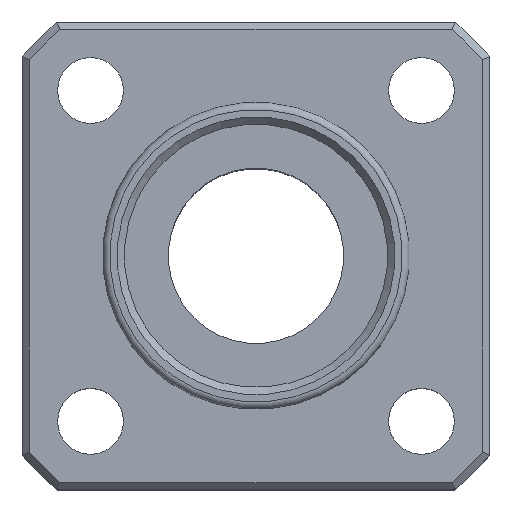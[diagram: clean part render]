
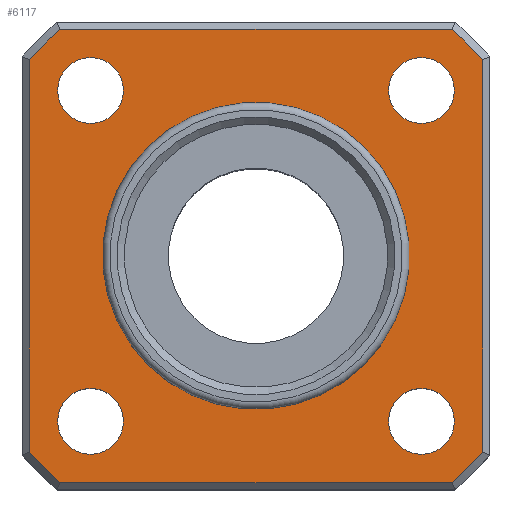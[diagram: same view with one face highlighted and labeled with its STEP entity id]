
A CAD part, top view. The second image highlights one B-rep face of the part: STEP entity #6117.
In plain terms, the highlighted planar face has unit normal (0, 0, 1).
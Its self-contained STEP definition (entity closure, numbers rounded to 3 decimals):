
#127=CIRCLE('',#6487,20.5);
#132=CIRCLE('',#6497,20.5);
#135=CIRCLE('',#6503,20.5);
#150=CIRCLE('',#6526,10.5);
#158=CIRCLE('',#6539,20.5);
#159=CIRCLE('',#6540,2.25);
#160=CIRCLE('',#6541,2.25);
#161=CIRCLE('',#6542,2.25);
#162=CIRCLE('',#6543,2.25);
#630=ORIENTED_EDGE('',*,*,#2360,.T.);
#631=ORIENTED_EDGE('',*,*,#2386,.T.);
#632=ORIENTED_EDGE('',*,*,#2387,.T.);
#633=ORIENTED_EDGE('',*,*,#2388,.T.);
#634=ORIENTED_EDGE('',*,*,#2351,.T.);
#635=ORIENTED_EDGE('',*,*,#2389,.T.);
#636=ORIENTED_EDGE('',*,*,#2336,.T.);
#637=ORIENTED_EDGE('',*,*,#2390,.T.);
#638=ORIENTED_EDGE('',*,*,#2391,.F.);
#639=ORIENTED_EDGE('',*,*,#2392,.F.);
#640=ORIENTED_EDGE('',*,*,#2393,.F.);
#641=ORIENTED_EDGE('',*,*,#2394,.F.);
#642=ORIENTED_EDGE('',*,*,#2376,.T.);
#2336=EDGE_CURVE('',#3220,#3219,#127,.T.);
#2351=EDGE_CURVE('',#3230,#3229,#132,.T.);
#2360=EDGE_CURVE('',#3236,#3235,#135,.T.);
#2376=EDGE_CURVE('',#3251,#3251,#150,.F.);
#2386=EDGE_CURVE('',#3235,#3260,#3756,.T.);
#2387=EDGE_CURVE('',#3260,#3261,#158,.T.);
#2388=EDGE_CURVE('',#3261,#3230,#3757,.T.);
#2389=EDGE_CURVE('',#3229,#3220,#3758,.T.);
#2390=EDGE_CURVE('',#3219,#3236,#3759,.T.);
#2391=EDGE_CURVE('',#3262,#3262,#159,.T.);
#2392=EDGE_CURVE('',#3263,#3263,#160,.T.);
#2393=EDGE_CURVE('',#3264,#3264,#161,.T.);
#2394=EDGE_CURVE('',#3265,#3265,#162,.T.);
#3219=VERTEX_POINT('',#9629);
#3220=VERTEX_POINT('',#9631);
#3229=VERTEX_POINT('',#9677);
#3230=VERTEX_POINT('',#9679);
#3235=VERTEX_POINT('',#9707);
#3236=VERTEX_POINT('',#9709);
#3251=VERTEX_POINT('',#9751);
#3260=VERTEX_POINT('',#9775);
#3261=VERTEX_POINT('',#9777);
#3262=VERTEX_POINT('',#9782);
#3263=VERTEX_POINT('',#9784);
#3264=VERTEX_POINT('',#9786);
#3265=VERTEX_POINT('',#9788);
#3756=LINE('',#9774,#4447);
#3757=LINE('',#9778,#4448);
#3758=LINE('',#9779,#4449);
#3759=LINE('',#9780,#4450);
#4447=VECTOR('',#7169,1000.);
#4448=VECTOR('',#7172,1000.);
#4449=VECTOR('',#7173,1000.);
#4450=VECTOR('',#7174,1000.);
#5007=EDGE_LOOP('',(#630,#631,#632,#633,#634,#635,#636,#637));
#5008=EDGE_LOOP('',(#638));
#5009=EDGE_LOOP('',(#639));
#5010=EDGE_LOOP('',(#640));
#5011=EDGE_LOOP('',(#641));
#5012=EDGE_LOOP('',(#642));
#5454=FACE_BOUND('',#5007,.T.);
#5455=FACE_BOUND('',#5008,.T.);
#5456=FACE_BOUND('',#5009,.T.);
#5457=FACE_BOUND('',#5010,.T.);
#5458=FACE_BOUND('',#5011,.T.);
#5459=FACE_BOUND('',#5012,.T.);
#5832=PLANE('',#6538);
#6117=ADVANCED_FACE('',(#5454,#5455,#5456,#5457,#5458,#5459),#5832,.T.);
#6487=AXIS2_PLACEMENT_3D('',#9630,#7057,#7058);
#6497=AXIS2_PLACEMENT_3D('',#9678,#7081,#7082);
#6503=AXIS2_PLACEMENT_3D('',#9708,#7095,#7096);
#6526=AXIS2_PLACEMENT_3D('',#9750,#7141,#7142);
#6538=AXIS2_PLACEMENT_3D('',#9773,#7167,#7168);
#6539=AXIS2_PLACEMENT_3D('',#9776,#7170,#7171);
#6540=AXIS2_PLACEMENT_3D('',#9781,#7175,#7176);
#6541=AXIS2_PLACEMENT_3D('',#9783,#7177,#7178);
#6542=AXIS2_PLACEMENT_3D('',#9785,#7179,#7180);
#6543=AXIS2_PLACEMENT_3D('',#9787,#7181,#7182);
#7057=DIRECTION('',(0.,0.,1.));
#7058=DIRECTION('',(0.707,-0.707,0.));
#7081=DIRECTION('',(0.,0.,1.));
#7082=DIRECTION('',(0.707,-0.707,0.));
#7095=DIRECTION('',(0.,0.,1.));
#7096=DIRECTION('',(0.707,-0.707,0.));
#7141=DIRECTION('',(0.,0.,1.));
#7142=DIRECTION('',(0.707,-0.707,0.));
#7167=DIRECTION('',(0.,0.,1.));
#7168=DIRECTION('',(0.707,-0.707,0.));
#7169=DIRECTION('',(0.,1.,0.));
#7170=DIRECTION('',(0.,0.,1.));
#7171=DIRECTION('',(0.707,-0.707,0.));
#7172=DIRECTION('',(-1.,0.,0.));
#7173=DIRECTION('',(0.,-1.,0.));
#7174=DIRECTION('',(1.,0.,0.));
#7175=DIRECTION('',(0.,0.,1.));
#7176=DIRECTION('',(0.707,-0.707,0.));
#7177=DIRECTION('',(0.,0.,1.));
#7178=DIRECTION('',(0.707,-0.707,0.));
#7179=DIRECTION('',(0.,0.,1.));
#7180=DIRECTION('',(0.707,-0.707,0.));
#7181=DIRECTION('',(0.,0.,1.));
#7182=DIRECTION('',(0.707,-0.707,0.));
#9629=CARTESIAN_POINT('',(-13.416,-15.5,0.));
#9630=CARTESIAN_POINT('',(0.,0.,0.));
#9631=CARTESIAN_POINT('',(-15.5,-13.416,0.));
#9677=CARTESIAN_POINT('',(-15.5,13.416,0.));
#9678=CARTESIAN_POINT('',(0.,0.,0.));
#9679=CARTESIAN_POINT('',(-13.416,15.5,0.));
#9707=CARTESIAN_POINT('',(15.5,-13.416,0.));
#9708=CARTESIAN_POINT('',(0.,0.,0.));
#9709=CARTESIAN_POINT('',(13.416,-15.5,0.));
#9750=CARTESIAN_POINT('',(0.,0.,0.));
#9751=CARTESIAN_POINT('',(7.425,-7.425,0.));
#9773=CARTESIAN_POINT('',(0.,0.,0.));
#9774=CARTESIAN_POINT('',(15.5,12.816,0.));
#9775=CARTESIAN_POINT('',(15.5,13.416,0.));
#9776=CARTESIAN_POINT('',(0.,0.,0.));
#9777=CARTESIAN_POINT('',(13.416,15.5,0.));
#9778=CARTESIAN_POINT('',(-12.816,15.5,0.));
#9779=CARTESIAN_POINT('',(-15.5,-12.816,0.));
#9780=CARTESIAN_POINT('',(12.816,-15.5,0.));
#9781=CARTESIAN_POINT('',(11.314,11.314,0.));
#9782=CARTESIAN_POINT('',(12.905,9.723,0.));
#9783=CARTESIAN_POINT('',(-11.314,11.314,0.));
#9784=CARTESIAN_POINT('',(-9.723,9.723,0.));
#9785=CARTESIAN_POINT('',(-11.314,-11.314,0.));
#9786=CARTESIAN_POINT('',(-9.723,-12.905,0.));
#9787=CARTESIAN_POINT('',(11.314,-11.314,0.));
#9788=CARTESIAN_POINT('',(12.905,-12.905,0.));
